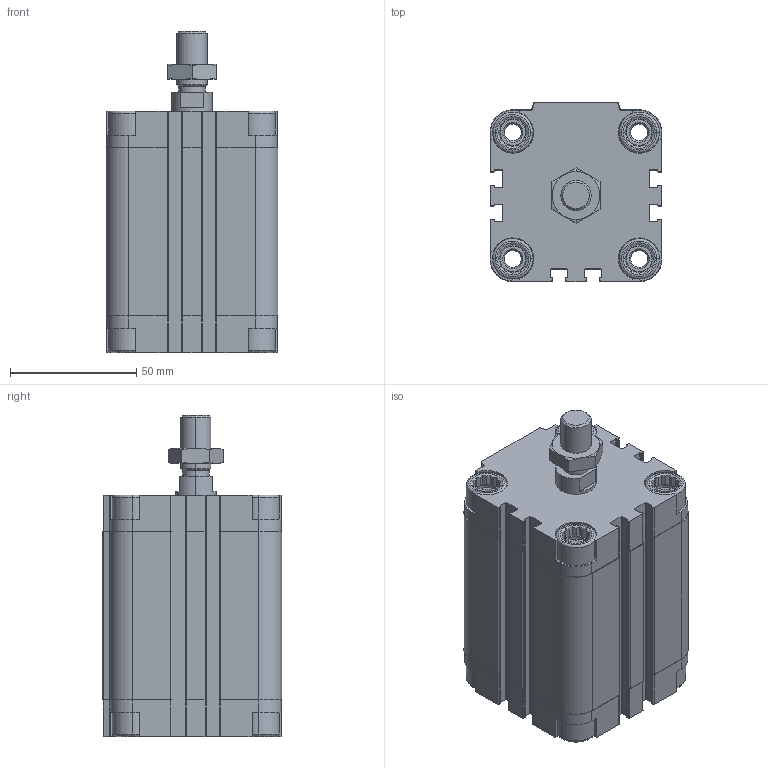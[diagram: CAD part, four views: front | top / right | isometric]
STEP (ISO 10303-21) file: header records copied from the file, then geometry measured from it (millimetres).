
FILE_DESCRIPTION (( 'STEP AP203' ), '1' );
FILE_NAME ('CDVU50-50.STEP', '2020-03-19T11:37:07', ( '' ), ( '' ), 'SwSTEP 2.0', 'SolidWorks 2019', '' );
FILE_SCHEMA (( 'CONFIG_CONTROL_DESIGN' ));
Length unit declared in the file: millimetre
Products named in the file (1): CDVU50-50
Bounding box: 68 x 71 x 127 mm (x, y, z)
Volume: 311968.4 mm3; surface area: 81168.3 mm2
Topology: 3 solids, 3 shells, 727 faces, 1932 edges, 1246 vertices
Faces by surface type: plane 425, cylinder 232, cone 54, torus 16
Entity records: 23055 total; most frequent: CARTESIAN_POINT 4826, ORIENTED_EDGE 3856, DIRECTION 3728, EDGE_CURVE 1928, AXIS2_PLACEMENT_3D 1276, VERTEX_POINT 1246, VECTOR 1176, LINE 1176
